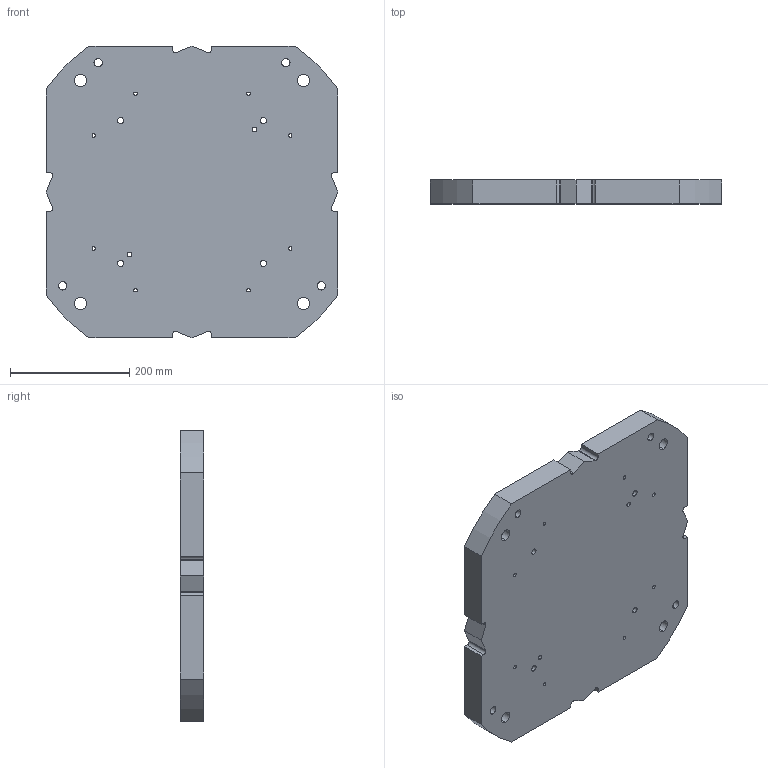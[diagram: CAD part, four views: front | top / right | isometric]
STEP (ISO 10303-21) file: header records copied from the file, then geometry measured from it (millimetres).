
FILE_DESCRIPTION (( 'STEP AP214' ), '1' );
FILE_NAME ('G-baseplate.STEP', '2025-12-05T11:45:58', ( '' ), ( '' ), 'SwSTEP 2.0', 'SolidWorks 2022', '' );
FILE_SCHEMA (( 'AUTOMOTIVE_DESIGN' ));
Length unit declared in the file: millimetre
Products named in the file (1): G-baseplate
Bounding box: 490 x 40 x 490 mm (x, y, z)
Volume: 9070956.5 mm3; surface area: 559067.8 mm2
Topology: 1 solids, 1 shells, 90 faces, 264 edges, 176 vertices
Faces by surface type: cylinder 64, plane 26
Entity records: 3354 total; most frequent: DIRECTION 574, CARTESIAN_POINT 531, ORIENTED_EDGE 528, EDGE_CURVE 264, AXIS2_PLACEMENT_3D 219, VERTEX_POINT 176, VECTOR 136, LINE 136
